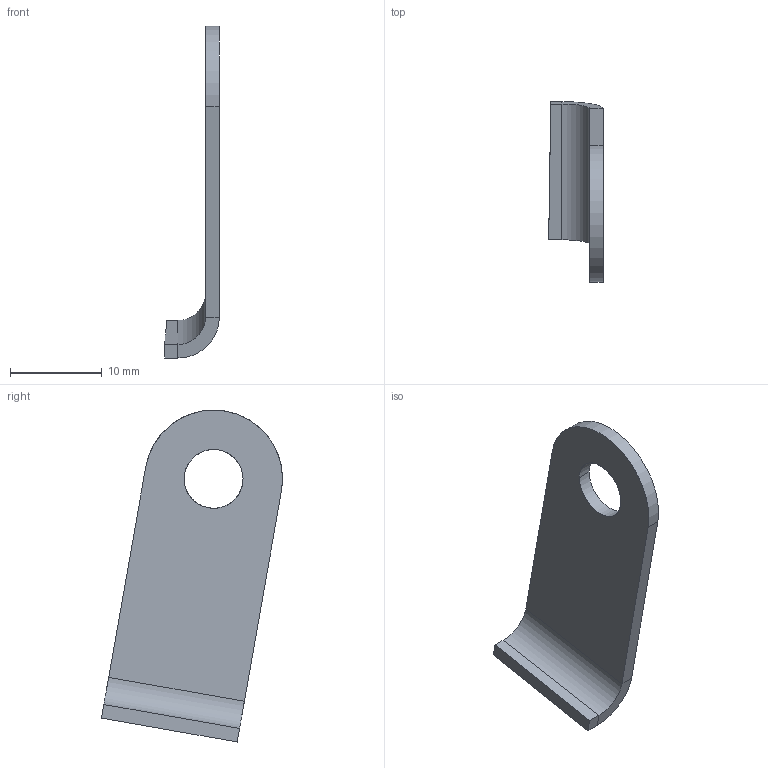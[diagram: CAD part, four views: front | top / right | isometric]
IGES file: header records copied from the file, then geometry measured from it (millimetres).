
Start section: START RECORD GO HERE.
Global section: file name: 20_M_EN_06125 (Chape chain shield 1).igs; native system: IBM CATIA IGES - CATIA Version 5 Release 19 ; preprocessor: CATIA Version 5 Release 19 ; author: Calixthe; organization: MACHINEDECALOU; date: 20200123.092746; units: millimetre
Bounding box: 5.94 x 19.7 x 36.13 mm (x, y, z)
Surface area: 1205.9 mm2 (no closed solid volume)
Topology: 0 solids, 0 shells, 16 faces, 70 edges, 71 vertices
Faces by surface type: plane 11, revolution 5
